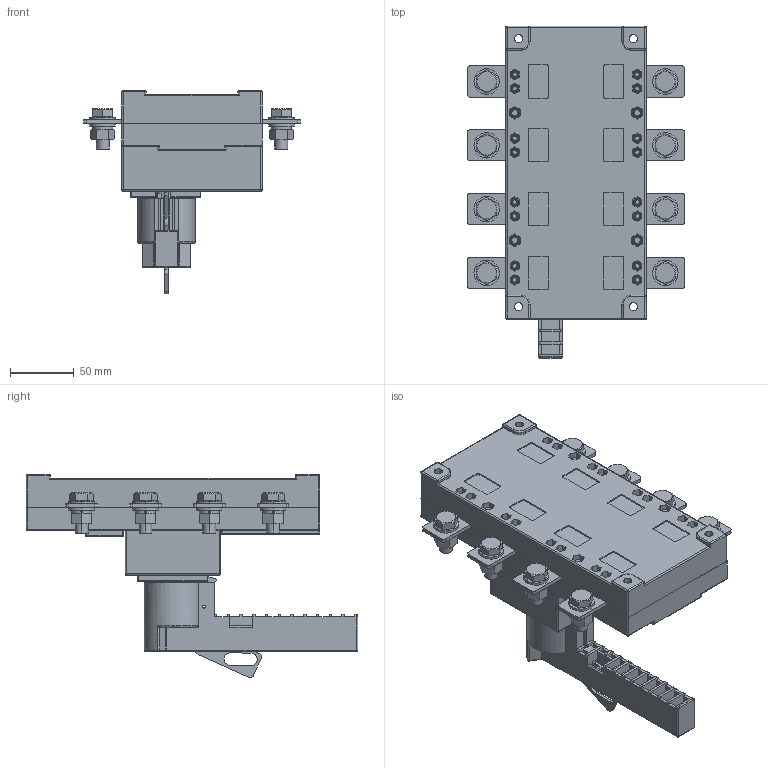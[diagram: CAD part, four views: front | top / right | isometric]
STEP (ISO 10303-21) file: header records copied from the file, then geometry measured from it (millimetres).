
FILE_DESCRIPTION((''),'2;1');
FILE_NAME('2TZD_506_1004_SW0001','2022-08-12T',('panxiangxiang'),(''),'PRO/ENGINEER BY PARAMETRIC TECHNOLOGY CORPORATION, 2017170','PRO/ENGINEER BY PARAMETRIC TECHNOLOGY CORPORATION, 2017170','');
FILE_SCHEMA(('CONFIG_CONTROL_DESIGN'));
Products named in the file (1): 2TZD_506_1004_SW0001
Bounding box: 170 x 260 x 159.39 mm (x, y, z)
Surface area: 253394.9 mm2 (no closed solid volume)
Topology: 0 solids, 118 shells, 1644 faces, 4635 edges, 3133 vertices
Faces by surface type: plane 843, cylinder 454, cone 223, torus 66, sphere 52, bspline 6
Entity records: 58364 total; most frequent: CARTESIAN_POINT 16024, DIRECTION 9022, ORIENTED_EDGE 8069, EDGE_CURVE 4627, AXIS2_PLACEMENT_3D 3308, VERTEX_POINT 3133, VECTOR 2406, LINE 2406
